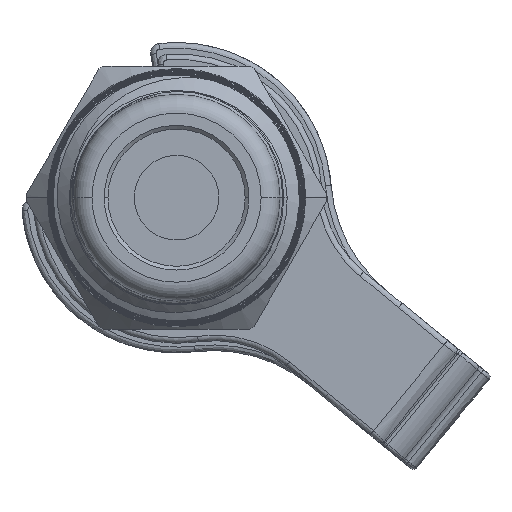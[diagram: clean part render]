
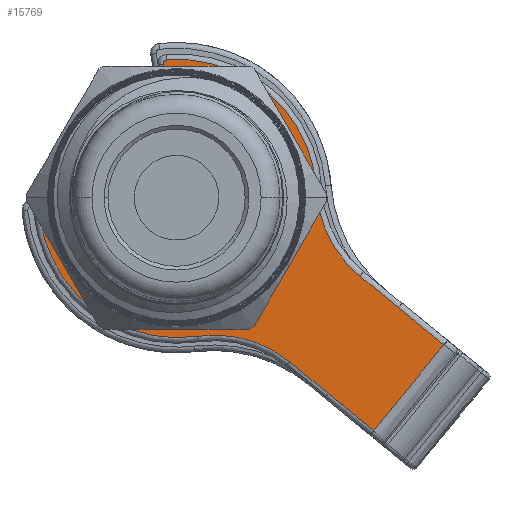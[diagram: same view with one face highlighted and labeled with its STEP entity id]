
A CAD part, front view. The second image highlights one B-rep face of the part: STEP entity #15769.
In plain terms, the highlighted planar face has unit normal (0, -1, 0).
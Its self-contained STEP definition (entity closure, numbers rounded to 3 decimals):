
#11700=CARTESIAN_POINT('',(6.161,-3.55,
2.95));
#11701=CARTESIAN_POINT('',(5.641,-3.55,
2.95));
#11702=CARTESIAN_POINT('',(4.99,-3.55,
2.95));
#11703=CARTESIAN_POINT('',(4.209,-3.55,
2.95));
#11704=CARTESIAN_POINT('',(3.883,-3.55,
2.95));
#11705=CARTESIAN_POINT('',(3.623,-3.55,
2.95));
#11706=CARTESIAN_POINT('',(3.428,-3.55,
2.951));
#11707=CARTESIAN_POINT('',(3.233,-3.55,
2.949));
#11708=CARTESIAN_POINT('',(3.102,-3.55,
2.95));
#11709=CARTESIAN_POINT('',(3.037,-3.55,
2.95));
#11711=CARTESIAN_POINT('',(8.815,-3.55,2.95));
#11712=CARTESIAN_POINT('',(8.561,-3.55,2.95));
#11713=CARTESIAN_POINT('',(8.069,-3.55,
2.95));
#11714=CARTESIAN_POINT('',(7.384,-3.55,
2.95));
#11715=CARTESIAN_POINT('',(6.747,-3.55,
2.95));
#11716=CARTESIAN_POINT('',(6.352,-3.55,
2.95));
#11717=CARTESIAN_POINT('',(6.161,-3.55,
2.95));
#11719=CARTESIAN_POINT('',(8.815,-3.55,9.25));
#11720=DIRECTION('',(0.,1.,0.));
#11721=DIRECTION('',(0.738,0.,-0.675));
#11722=AXIS2_PLACEMENT_3D('',#11719,#11720,#11721);
#11724=CARTESIAN_POINT('',(18.921,-3.55,0.));
#11725=DIRECTION('',(0.,-1.,0.));
#11726=DIRECTION('',(0.691,0.,0.722));
#11727=AXIS2_PLACEMENT_3D('',#11724,#11725,#11726);
#11729=CARTESIAN_POINT('',(23.9,-3.55,5.201));
#11730=DIRECTION('',(0.,-1.,0.));
#11731=DIRECTION('',(0.673,0.,-0.74));
#11732=AXIS2_PLACEMENT_3D('',#11729,#11730,#11731);
#11734=DIRECTION('',(0.74,0.,0.673));
#11735=VECTOR('',#11734,2.157);
#11736=CARTESIAN_POINT('',(22.438,-3.55,3.602));
#11737=LINE('',#11736,#11735);
#11738=CARTESIAN_POINT('',(22.303,-3.55,3.75));
#11739=DIRECTION('',(0.,-1.,0.));
#11740=DIRECTION('',(-0.67,0.,-0.743));
#11741=AXIS2_PLACEMENT_3D('',#11738,#11739,#11740);
#11743=CARTESIAN_POINT('',(18.921,-3.55,0.));
#11744=DIRECTION('',(0.,1.,0.));
#11745=DIRECTION('',(0.67,0.,-0.743));
#11746=AXIS2_PLACEMENT_3D('',#11743,#11744,#11745);
#11748=CARTESIAN_POINT('',(22.303,-3.55,-3.75));
#11749=DIRECTION('',(0.,-1.,0.));
#11750=DIRECTION('',(0.673,0.,0.74));
#11751=AXIS2_PLACEMENT_3D('',#11748,#11749,#11750);
#11753=DIRECTION('',(-0.74,0.,0.673));
#11754=VECTOR('',#11753,2.157);
#11755=CARTESIAN_POINT('',(24.035,-3.55,-5.053));
#11756=LINE('',#11755,#11754);
#11757=CARTESIAN_POINT('',(23.9,-3.55,-5.201));
#11758=DIRECTION('',(0.,-1.,0.));
#11759=DIRECTION('',(0.691,0.,-0.722));
#11760=AXIS2_PLACEMENT_3D('',#11757,#11758,#11759);
#11762=CARTESIAN_POINT('',(18.921,-3.55,0.));
#11763=DIRECTION('',(0.,-1.,0.));
#11764=DIRECTION('',(-0.738,0.,-0.675));
#11765=AXIS2_PLACEMENT_3D('',#11762,#11763,#11764);
#11767=CARTESIAN_POINT('',(8.815,-3.55,-9.25));
#11768=DIRECTION('',(0.,1.,0.));
#11769=DIRECTION('',(0.,0.,1.));
#11770=AXIS2_PLACEMENT_3D('',#11767,#11768,#11769);
#11772=CARTESIAN_POINT('',(6.161,-3.55,-2.95));
#11773=CARTESIAN_POINT('',(6.279,-3.55,-2.95));
#11774=CARTESIAN_POINT('',(6.524,-3.55,-2.95));
#11775=CARTESIAN_POINT('',(6.917,-3.55,-2.95));
#11776=CARTESIAN_POINT('',(7.34,-3.55,-2.95));
#11777=CARTESIAN_POINT('',(7.795,-3.55,-2.95));
#11778=CARTESIAN_POINT('',(8.283,-3.55,-2.95));
#11779=CARTESIAN_POINT('',(8.634,-3.55,-2.95));
#11780=CARTESIAN_POINT('',(8.815,-3.55,-2.95));
#11782=DIRECTION('',(1.,0.,0.));
#11783=VECTOR('',#11782,3.124);
#11784=CARTESIAN_POINT('',(3.037,-3.55,
-2.95));
#11785=LINE('',#11784,#11783);
#11786=DIRECTION('',(0.,0.,1.));
#11787=VECTOR('',#11786,5.9);
#11788=CARTESIAN_POINT('',(3.037,-3.55,
-2.95));
#11789=LINE('',#11788,#11787);
#11801=CARTESIAN_POINT('',(3.037,-3.55,
2.95));
#11815=CARTESIAN_POINT('',(3.037,-3.55,
-2.95));
#13233=VERTEX_POINT('',#11801);
#13288=VERTEX_POINT('',#11815);
#13325=CARTESIAN_POINT('',(6.161,-3.55,-2.95));
#13326=VERTEX_POINT('',#13325);
#13329=VERTEX_POINT('',#11700);
#13379=CARTESIAN_POINT('',(8.815,-3.55,-2.95));
#13380=CARTESIAN_POINT('',(13.463,-3.55,-4.996));
#13381=VERTEX_POINT('',#13379);
#13382=VERTEX_POINT('',#13380);
#13387=CARTESIAN_POINT('',(24.038,-3.55,-5.346));
#13388=VERTEX_POINT('',#13387);
#13393=CARTESIAN_POINT('',(24.035,-3.55,-5.053));
#13394=CARTESIAN_POINT('',(22.438,-3.55,-3.602));
#13395=VERTEX_POINT('',#13393);
#13396=VERTEX_POINT('',#13394);
#13401=CARTESIAN_POINT('',(22.17,-3.55,-3.601));
#13402=CARTESIAN_POINT('',(22.17,-3.55,3.601));
#13403=VERTEX_POINT('',#13401);
#13404=VERTEX_POINT('',#13402);
#13409=CARTESIAN_POINT('',(22.438,-3.55,3.602));
#13410=CARTESIAN_POINT('',(24.035,-3.55,5.053));
#13411=VERTEX_POINT('',#13409);
#13412=VERTEX_POINT('',#13410);
#13417=CARTESIAN_POINT('',(24.038,-3.55,5.346));
#13418=CARTESIAN_POINT('',(13.463,-3.55,4.996));
#13419=VERTEX_POINT('',#13417);
#13420=VERTEX_POINT('',#13418);
#13423=CARTESIAN_POINT('',(8.815,-3.55,2.95));
#13424=VERTEX_POINT('',#13423);
#15731=CARTESIAN_POINT('',(4.599,-3.55,0.));
#15732=DIRECTION('',(0.,1.,0.));
#15733=DIRECTION('',(1.,0.,0.));
#15734=AXIS2_PLACEMENT_3D('',#15731,#15732,#15733);
#15735=PLANE('',#15734);
#15737=ORIENTED_EDGE('',*,*,#15736,.F.);
#15739=ORIENTED_EDGE('',*,*,#15738,.F.);
#15741=ORIENTED_EDGE('',*,*,#15740,.F.);
#15743=ORIENTED_EDGE('',*,*,#15742,.F.);
#15745=ORIENTED_EDGE('',*,*,#15744,.F.);
#15747=ORIENTED_EDGE('',*,*,#15746,.F.);
#15749=ORIENTED_EDGE('',*,*,#15748,.F.);
#15751=ORIENTED_EDGE('',*,*,#15750,.F.);
#15753=ORIENTED_EDGE('',*,*,#15752,.F.);
#15755=ORIENTED_EDGE('',*,*,#15754,.F.);
#15757=ORIENTED_EDGE('',*,*,#15756,.F.);
#15759=ORIENTED_EDGE('',*,*,#15758,.F.);
#15760=ORIENTED_EDGE('',*,*,#15721,.F.);
#15762=ORIENTED_EDGE('',*,*,#15761,.F.);
#15764=ORIENTED_EDGE('',*,*,#15763,.F.);
#15766=ORIENTED_EDGE('',*,*,#15765,.T.);
#15767=EDGE_LOOP('',(#15737,#15739,#15741,#15743,#15745,#15747,#15749,#15751,
#15753,#15755,#15757,#15759,#15760,#15762,#15764,#15766));
#15768=FACE_OUTER_BOUND('',#15767,.F.);
#15769=ADVANCED_FACE('',(#15768),#15735,.F.);
#11710=B_SPLINE_CURVE_WITH_KNOTS('',3,(#11700,#11701,#11702,#11703,#11704,
#11705,#11706,#11707,#11708,#11709),.UNSPECIFIED.,.F.,.F.,(4,1,1,1,1,1,1,4),(
0.,0.5,0.625,0.75,0.813,
0.875,0.938,1.),.UNSPECIFIED.);
#11718=B_SPLINE_CURVE_WITH_KNOTS('',3,(#11711,#11712,#11713,#11714,#11715,
#11716,#11717),.UNSPECIFIED.,.F.,.F.,(4,1,1,1,4),(0.,0.25,0.5,0.75,
1.),.UNSPECIFIED.);
#11723=CIRCLE('',#11722,6.3);
#11728=CIRCLE('',#11727,7.4);
#11733=CIRCLE('',#11732,0.2);
#11742=CIRCLE('',#11741,0.2);
#11747=CIRCLE('',#11746,4.85);
#11752=CIRCLE('',#11751,0.2);
#11761=CIRCLE('',#11760,0.2);
#11766=CIRCLE('',#11765,7.4);
#11771=CIRCLE('',#11770,6.3);
#11781=B_SPLINE_CURVE_WITH_KNOTS('',3,(#11772,#11773,#11774,#11775,#11776,
#11777,#11778,#11779,#11780),.UNSPECIFIED.,.F.,.F.,(4,1,1,1,1,1,4),(0.,
0.167,0.333,0.5,0.667,0.833,
1.),.UNSPECIFIED.);
#15721=EDGE_CURVE('',#13381,#13382,#11771,.T.);
#15736=EDGE_CURVE('',#13329,#13233,#11710,.T.);
#15738=EDGE_CURVE('',#13424,#13329,#11718,.T.);
#15740=EDGE_CURVE('',#13420,#13424,#11723,.T.);
#15742=EDGE_CURVE('',#13419,#13420,#11728,.T.);
#15744=EDGE_CURVE('',#13412,#13419,#11733,.T.);
#15746=EDGE_CURVE('',#13411,#13412,#11737,.T.);
#15748=EDGE_CURVE('',#13404,#13411,#11742,.T.);
#15750=EDGE_CURVE('',#13403,#13404,#11747,.T.);
#15752=EDGE_CURVE('',#13396,#13403,#11752,.T.);
#15754=EDGE_CURVE('',#13395,#13396,#11756,.T.);
#15756=EDGE_CURVE('',#13388,#13395,#11761,.T.);
#15758=EDGE_CURVE('',#13382,#13388,#11766,.T.);
#15761=EDGE_CURVE('',#13326,#13381,#11781,.T.);
#15763=EDGE_CURVE('',#13288,#13326,#11785,.T.);
#15765=EDGE_CURVE('',#13288,#13233,#11789,.T.);
